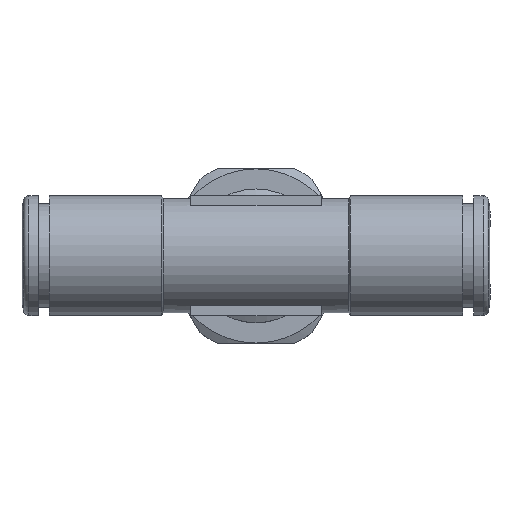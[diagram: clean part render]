
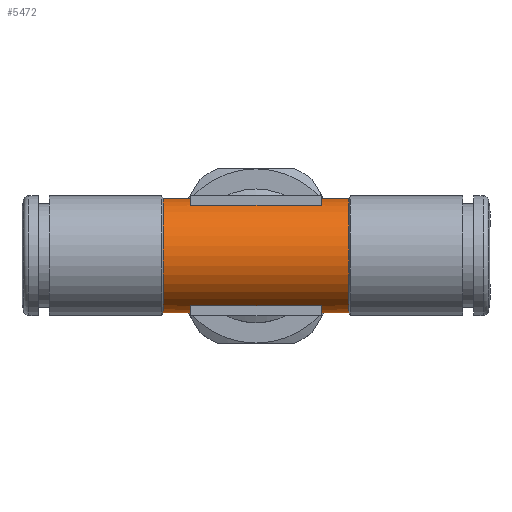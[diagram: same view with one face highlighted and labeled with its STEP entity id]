
A CAD part, top view. The second image highlights one B-rep face of the part: STEP entity #5472.
In plain terms, the highlighted cylindrical face has radius 5.25 mm (diameter 10.5 mm), a full revolution.
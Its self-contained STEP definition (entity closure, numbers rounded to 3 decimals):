
#10=ELLIPSE('',#5320,7.425,5.25);
#11=ELLIPSE('',#5323,7.425,5.25);
#1127=VECTOR('',#3728,1.);
#1128=VECTOR('',#3731,1.);
#1129=VECTOR('',#3734,1.);
#1130=VECTOR('',#3737,1.);
#1131=VECTOR('',#3740,1.);
#1132=VECTOR('',#3743,1.);
#1181=LINE('',#4974,#1127);
#1182=LINE('',#4978,#1128);
#1183=LINE('',#4982,#1129);
#1184=LINE('',#4986,#1130);
#1185=LINE('',#4990,#1131);
#1186=LINE('',#4994,#1132);
#1291=CYLINDRICAL_SURFACE('',#5316,5.25);
#1534=ORIENTED_EDGE('',*,*,#2044,.F.);
#1535=ORIENTED_EDGE('',*,*,#2045,.T.);
#1536=ORIENTED_EDGE('',*,*,#2046,.F.);
#1537=ORIENTED_EDGE('',*,*,#2047,.F.);
#1538=ORIENTED_EDGE('',*,*,#2048,.F.);
#1539=ORIENTED_EDGE('',*,*,#2049,.F.);
#1540=ORIENTED_EDGE('',*,*,#2050,.F.);
#1541=ORIENTED_EDGE('',*,*,#2051,.T.);
#1542=ORIENTED_EDGE('',*,*,#2052,.F.);
#1543=ORIENTED_EDGE('',*,*,#2053,.F.);
#1544=ORIENTED_EDGE('',*,*,#2054,.F.);
#1545=ORIENTED_EDGE('',*,*,#2055,.F.);
#1546=ORIENTED_EDGE('',*,*,#2056,.F.);
#1547=ORIENTED_EDGE('',*,*,#2057,.T.);
#1760=CIRCLE('',#5315,5.25);
#1761=CIRCLE('',#5317,5.25);
#1762=CIRCLE('',#5318,5.25);
#1763=CIRCLE('',#5319,5.25);
#1764=CIRCLE('',#5321,5.25);
#1765=CIRCLE('',#5322,5.25);
#1881=VERTEX_POINT('',#4967);
#1882=VERTEX_POINT('',#4970);
#1883=VERTEX_POINT('',#4972);
#1884=VERTEX_POINT('',#4973);
#1885=VERTEX_POINT('',#4975);
#1886=VERTEX_POINT('',#4977);
#1887=VERTEX_POINT('',#4979);
#1888=VERTEX_POINT('',#4981);
#1889=VERTEX_POINT('',#4983);
#1890=VERTEX_POINT('',#4985);
#1891=VERTEX_POINT('',#4987);
#1892=VERTEX_POINT('',#4989);
#1893=VERTEX_POINT('',#4991);
#1894=VERTEX_POINT('',#4993);
#2044=EDGE_CURVE('',#1881,#1881,#1760,.T.);
#2045=EDGE_CURVE('',#1882,#1882,#1761,.T.);
#2046=EDGE_CURVE('',#1883,#1884,#1181,.T.);
#2047=EDGE_CURVE('',#1885,#1883,#1762,.T.);
#2048=EDGE_CURVE('',#1886,#1885,#1182,.T.);
#2049=EDGE_CURVE('',#1887,#1886,#1763,.T.);
#2050=EDGE_CURVE('',#1888,#1887,#1183,.T.);
#2051=EDGE_CURVE('',#1888,#1889,#10,.T.);
#2052=EDGE_CURVE('',#1890,#1889,#1184,.T.);
#2053=EDGE_CURVE('',#1891,#1890,#1764,.T.);
#2054=EDGE_CURVE('',#1892,#1891,#1185,.T.);
#2055=EDGE_CURVE('',#1893,#1892,#1765,.T.);
#2056=EDGE_CURVE('',#1894,#1893,#1186,.T.);
#2057=EDGE_CURVE('',#1894,#1884,#11,.T.);
#2252=EDGE_LOOP('',(#1534));
#2253=EDGE_LOOP('',(#1535));
#2254=EDGE_LOOP('',(#1536,#1537,#1538,#1539,#1540,#1541,#1542,#1543,#1544,
#1545,#1546,#1547));
#2452=FACE_BOUND('',#2252,.T.);
#2453=FACE_BOUND('',#2253,.T.);
#2454=FACE_BOUND('',#2254,.T.);
#3722=DIRECTION('',(1.,0.,0.));
#3723=DIRECTION('',(0.,5.25,0.));
#3724=DIRECTION('',(-1.,0.,0.));
#3725=DIRECTION('',(0.,1.,0.));
#3726=DIRECTION('',(1.,0.,0.));
#3727=DIRECTION('',(0.,5.25,0.));
#3728=DIRECTION('',(3.5,0.,0.));
#3729=DIRECTION('',(1.,0.,0.));
#3730=DIRECTION('',(0.,2.5,4.617));
#3731=DIRECTION('',(-12.,0.,0.));
#3732=DIRECTION('',(-1.,0.,0.));
#3733=DIRECTION('',(0.,-2.5,4.617));
#3734=DIRECTION('',(3.5,0.,0.));
#3735=DIRECTION('',(0.707,0.707,0.));
#3736=DIRECTION('',(0.707,-0.707,0.));
#3737=DIRECTION('',(-3.5,0.,0.));
#3738=DIRECTION('',(-1.,0.,0.));
#3739=DIRECTION('',(0.,2.5,-4.617));
#3740=DIRECTION('',(12.,0.,0.));
#3741=DIRECTION('',(1.,0.,0.));
#3742=DIRECTION('',(0.,-2.5,-4.617));
#3743=DIRECTION('',(-3.5,0.,0.));
#3744=DIRECTION('',(-0.707,0.707,0.));
#3745=DIRECTION('',(-0.707,-0.707,0.));
#4967=CARTESIAN_POINT('',(33.945,42.731,0.));
#4968=CARTESIAN_POINT('',(33.945,37.481,0.));
#4969=CARTESIAN_POINT('',(33.945,37.481,0.));
#4970=CARTESIAN_POINT('',(16.945,42.731,0.));
#4971=CARTESIAN_POINT('',(16.945,37.481,0.));
#4972=CARTESIAN_POINT('',(19.445,34.981,4.617));
#4973=CARTESIAN_POINT('',(22.945,34.981,4.617));
#4974=CARTESIAN_POINT('',(19.445,34.981,4.617));
#4975=CARTESIAN_POINT('',(19.445,39.981,4.617));
#4976=CARTESIAN_POINT('',(19.445,37.481,0.));
#4977=CARTESIAN_POINT('',(31.445,39.981,4.617));
#4978=CARTESIAN_POINT('',(31.445,39.981,4.617));
#4979=CARTESIAN_POINT('',(31.445,34.981,4.617));
#4980=CARTESIAN_POINT('',(31.445,37.481,0.));
#4981=CARTESIAN_POINT('',(27.945,34.981,4.617));
#4982=CARTESIAN_POINT('',(27.945,34.981,4.617));
#4983=CARTESIAN_POINT('',(27.945,34.981,-4.617));
#4984=CARTESIAN_POINT('',(25.445,37.481,0.));
#4985=CARTESIAN_POINT('',(31.445,34.981,-4.617));
#4986=CARTESIAN_POINT('',(31.445,34.981,-4.617));
#4987=CARTESIAN_POINT('',(31.445,39.981,-4.617));
#4988=CARTESIAN_POINT('',(31.445,37.481,0.));
#4989=CARTESIAN_POINT('',(19.445,39.981,-4.617));
#4990=CARTESIAN_POINT('',(19.445,39.981,-4.617));
#4991=CARTESIAN_POINT('',(19.445,34.981,-4.617));
#4992=CARTESIAN_POINT('',(19.445,37.481,0.));
#4993=CARTESIAN_POINT('',(22.945,34.981,-4.617));
#4994=CARTESIAN_POINT('',(22.945,34.981,-4.617));
#4995=CARTESIAN_POINT('',(25.445,37.481,0.));
#5315=AXIS2_PLACEMENT_3D('',#4968,#3722,#3723);
#5316=AXIS2_PLACEMENT_3D('',#4969,#3724,#3725);
#5317=AXIS2_PLACEMENT_3D('',#4971,#3726,#3727);
#5318=AXIS2_PLACEMENT_3D('',#4976,#3729,#3730);
#5319=AXIS2_PLACEMENT_3D('',#4980,#3732,#3733);
#5320=AXIS2_PLACEMENT_3D('',#4984,#3735,#3736);
#5321=AXIS2_PLACEMENT_3D('',#4988,#3738,#3739);
#5322=AXIS2_PLACEMENT_3D('',#4992,#3741,#3742);
#5323=AXIS2_PLACEMENT_3D('',#4995,#3744,#3745);
#5472=ADVANCED_FACE('',(#2452,#2453,#2454),#1291,.T.);
